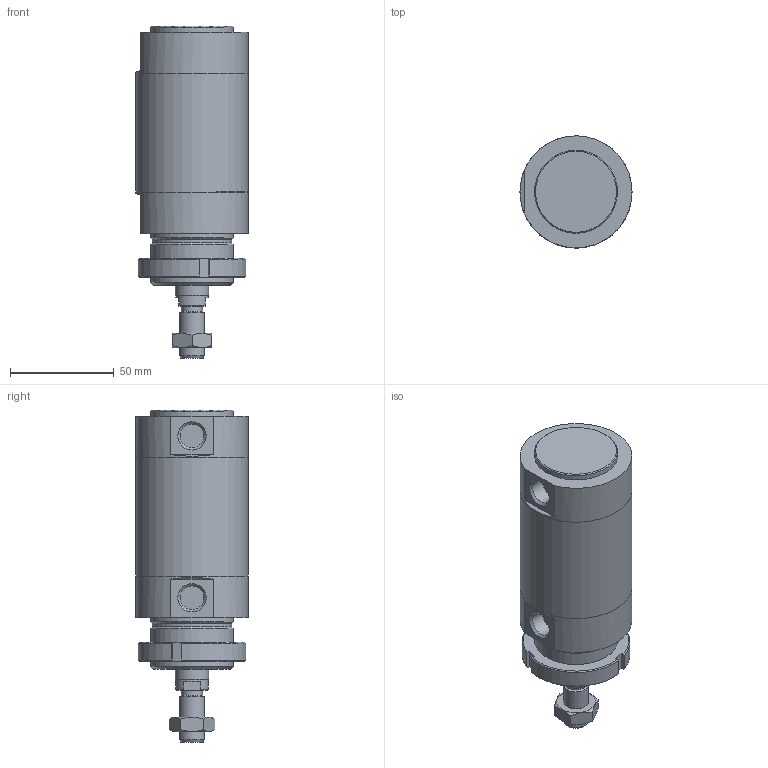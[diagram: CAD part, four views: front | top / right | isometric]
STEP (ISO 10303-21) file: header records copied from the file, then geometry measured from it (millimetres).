
FILE_DESCRIPTION(/* description */ (''),/* implementation_level */ '2;1');
FILE_NAME(/* name */ 'I:\Area Tecnica\Documenti\A-Manieri\_Inventor\12X\12X#D_###_####_#_#\12XAD_050_0015_#_#.stp',/* time_stamp */ '2015-04-29T16:43:54+02:00',/* author */ ('maniean1'),/* organization */ ('Pneumax S.p.A.'),/* preprocessor_version */ 'ST-DEVELOPER v15.2',/* originating_system */ 'Autodesk Inventor 2014',/* authorisation */ '');
FILE_SCHEMA (('AUTOMOTIVE_DESIGN { 1 0 10303 214 3 1 1 }'));
Length unit declared in the file: millimetre
Products named in the file (7): C1250_619-0015; 12X50_604; S12X50_0015; 12X_50_11; 12X50_611; G12X_050_05; 12XAD_050_0015_#_#
Bounding box: 54 x 54 x 160 mm (x, y, z)
Volume: 243386.2 mm3; surface area: 61186.6 mm2
Topology: 6 solids, 6 shells, 81 faces, 175 edges, 112 vertices
Faces by surface type: plane 41, cylinder 21, cone 19
Full cylindrical faces by diameter (mm): 10.2 x1, 11.4 x2, 12 x2, 14 x1, 15.6 x1, 16 x1, 38.2 x1, 40 x4, 50 x2, 54 x3
Entity records: 2155 total; most frequent: CARTESIAN_POINT 400, DIRECTION 364, ORIENTED_EDGE 284, AXIS2_PLACEMENT_3D 156, EDGE_CURVE 142, EDGE_LOOP 124, VERTEX_POINT 108, ADVANCED_FACE 81
